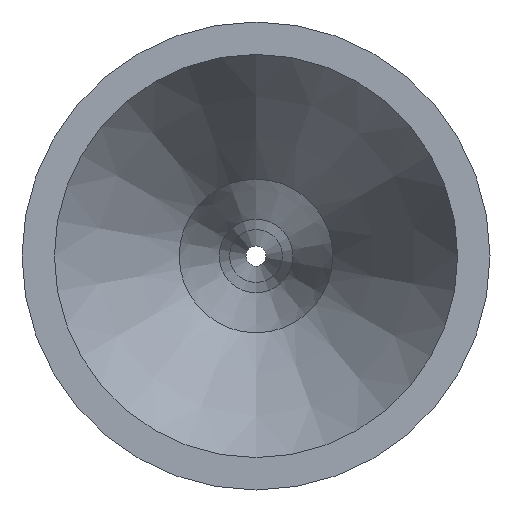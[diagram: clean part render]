
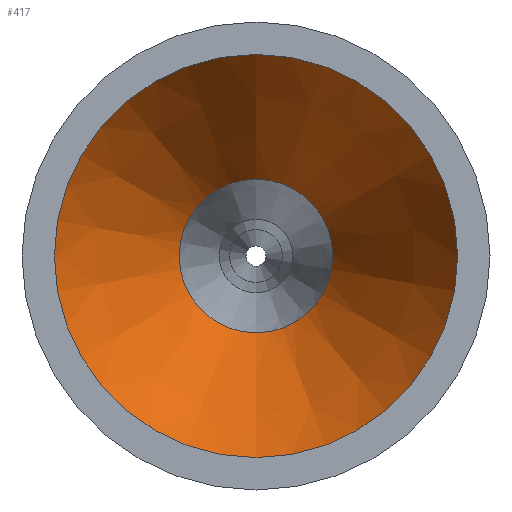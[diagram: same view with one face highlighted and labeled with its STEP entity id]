
A CAD part, left-side view. The second image highlights one B-rep face of the part: STEP entity #417.
In plain terms, the highlighted conical face has half-angle 29.887 degrees and reference radius 8.4 mm.
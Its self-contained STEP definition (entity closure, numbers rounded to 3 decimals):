
#78 = AXIS2_PLACEMENT_3D ( 'NONE', #685, #1850, #1504 ) ;
#93 = CIRCLE ( 'NONE', #1690, 8.4 ) ;
#109 = CIRCLE ( 'NONE', #2089, 3.2 ) ;
#158 = VERTEX_POINT ( 'NONE', #323 ) ;
#171 = FACE_BOUND ( 'NONE', #588, .T. ) ;
#204 = CARTESIAN_POINT ( 'NONE',  ( 14.988, 0., 0. ) ) ;
#323 = CARTESIAN_POINT ( 'NONE',  ( 5.94, 0., 8.4 ) ) ;
#417 = ADVANCED_FACE ( 'NONE', ( #171, #838 ), #633, .F. ) ;
#518 = DIRECTION ( 'NONE',  ( -1., 0., 0. ) ) ;
#588 = EDGE_LOOP ( 'NONE', ( #1251 ) ) ;
#633 = CONICAL_SURFACE ( 'NONE', #78, 8.4, 0.522 ) ;
#681 = EDGE_CURVE ( 'NONE', #158, #158, #93, .T. ) ;
#685 = CARTESIAN_POINT ( 'NONE',  ( 5.94, 0., 0. ) ) ;
#838 = FACE_OUTER_BOUND ( 'NONE', #1187, .T. ) ;
#1086 = DIRECTION ( 'NONE',  ( -1., 0., 0. ) ) ;
#1187 = EDGE_LOOP ( 'NONE', ( #1285 ) ) ;
#1251 = ORIENTED_EDGE ( 'NONE', *, *, #1502, .F. ) ;
#1257 = DIRECTION ( 'NONE',  ( 0., 0., 1. ) ) ;
#1285 = ORIENTED_EDGE ( 'NONE', *, *, #681, .T. ) ;
#1502 = EDGE_CURVE ( 'NONE', #1767, #1767, #109, .T. ) ;
#1504 = DIRECTION ( 'NONE',  ( 0., 0., 1. ) ) ;
#1663 = DIRECTION ( 'NONE',  ( 0., -1., 0. ) ) ;
#1690 = AXIS2_PLACEMENT_3D ( 'NONE', #1794, #1086, #1257 ) ;
#1767 = VERTEX_POINT ( 'NONE', #2114 ) ;
#1794 = CARTESIAN_POINT ( 'NONE',  ( 5.94, 0., 0. ) ) ;
#1850 = DIRECTION ( 'NONE',  ( -1., 0., 0. ) ) ;
#2089 = AXIS2_PLACEMENT_3D ( 'NONE', #204, #518, #1663 ) ;
#2114 = CARTESIAN_POINT ( 'NONE',  ( 14.988, -3.2, 0. ) ) ;
